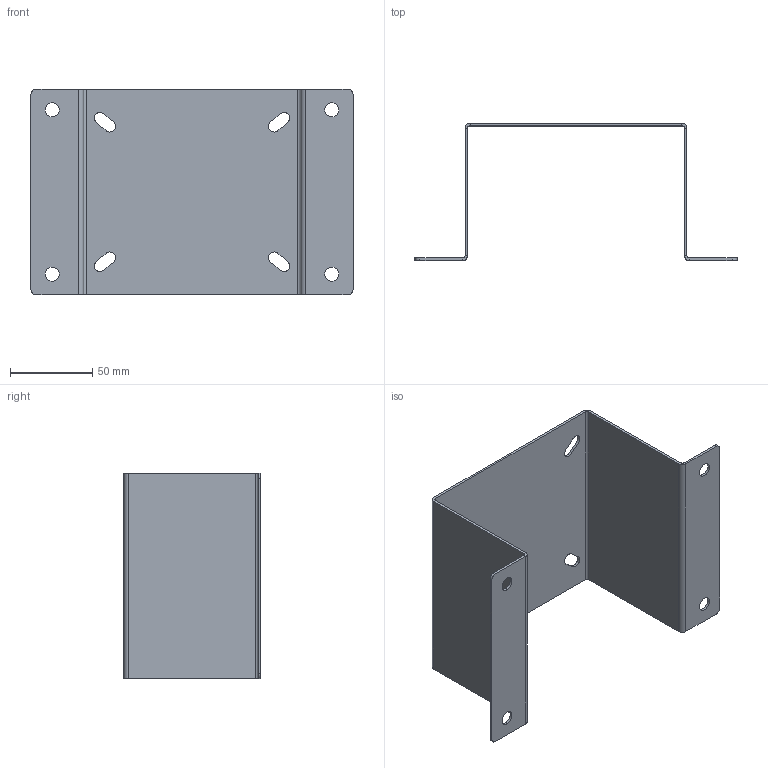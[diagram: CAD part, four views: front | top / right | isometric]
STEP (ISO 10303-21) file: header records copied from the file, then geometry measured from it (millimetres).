
FILE_DESCRIPTION((''),'2;1');
FILE_NAME('109383','2021-05-18T08:42:47',('Tomas Bellgran'),(''),'CREO PARAMETRIC BY PTC INC, 2018260','CREO PARAMETRIC BY PTC INC, 2018260','');
FILE_SCHEMA(('AUTOMOTIVE_DESIGN { 1 0 10303 214 1 1 1 1 }'));
Length unit declared in the file: millimetre
Products named in the file (1): 109383
Bounding box: 196 x 83.5 x 125 mm (x, y, z)
Volume: 65864.7 mm3; surface area: 89641.2 mm2
Topology: 1 solids, 1 shells, 66 faces, 160 edges, 96 vertices
Faces by surface type: plane 38, cylinder 28
Entity records: 2450 total; most frequent: DIRECTION 361, CARTESIAN_POINT 333, ORIENTED_EDGE 320, EDGE_CURVE 160, AXIS2_PLACEMENT_3D 127, VECTOR 104, LINE 104, VERTEX_POINT 96
